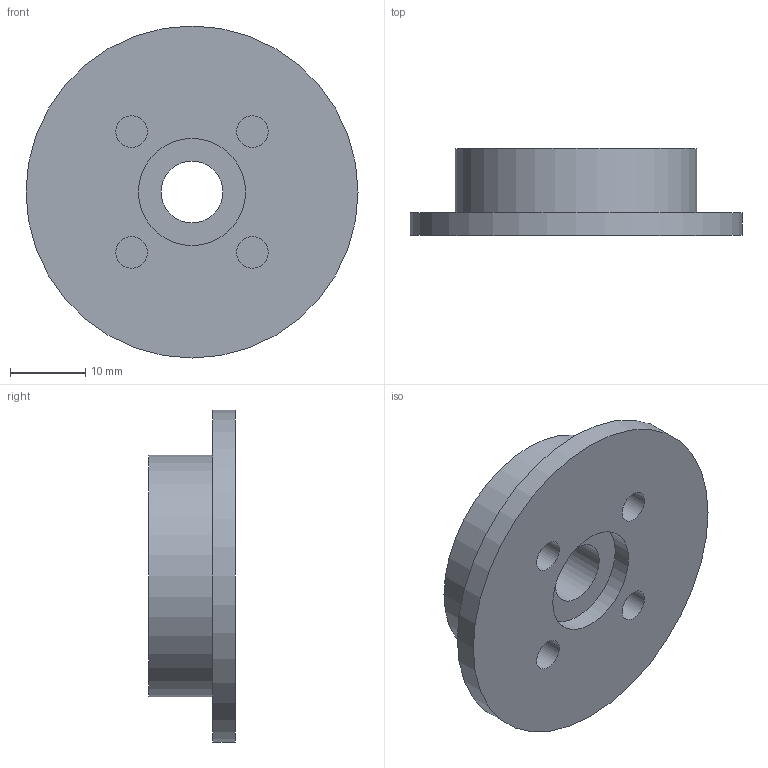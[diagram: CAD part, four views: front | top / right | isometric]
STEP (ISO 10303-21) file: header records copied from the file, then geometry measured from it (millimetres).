
FILE_DESCRIPTION(('Open CASCADE Model'),'2;1');
FILE_NAME('Open CASCADE Shape Model','2026-09-21T16:05:39',('Author'),( 'Open CASCADE'),'Open CASCADE STEP processor 7.8','Open CASCADE 7.8' ,'Unknown');
FILE_SCHEMA(('AUTOMOTIVE_DESIGN { 1 0 10303 214 1 1 1 1 }'));
Length unit declared in the file: millimetre
Products named in the file (1): Open CASCADE STEP translator 7.8 5
Bounding box: 44 x 11.5 x 44 mm (x, y, z)
Volume: 10055.4 mm3; surface area: 4996.6 mm2
Topology: 1 solids, 1 shells, 16 faces, 24 edges, 16 vertices
Faces by surface type: cylinder 8, plane 8
Full cylindrical faces by diameter (mm): 4.2 x4, 8.2 x1, 14.2 x1, 32 x1, 44 x1
Entity records: 690 total; most frequent: DIRECTION 122, CARTESIAN_POINT 105, ORIENTED_EDGE 48, PCURVE 48, DEFINITIONAL_REPRESENTATION 48, LINE 40, VECTOR 40, AXIS2_PLACEMENT_3D 33
